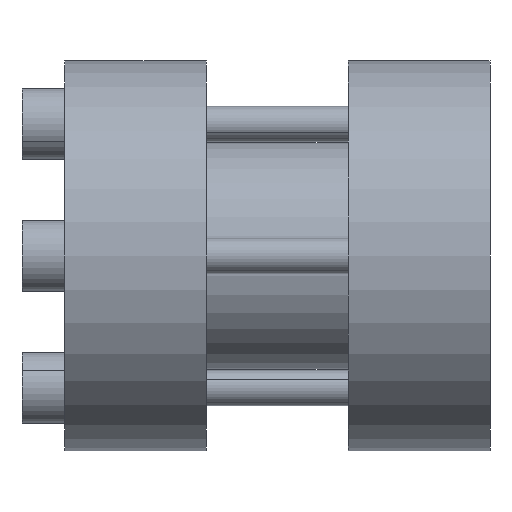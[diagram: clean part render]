
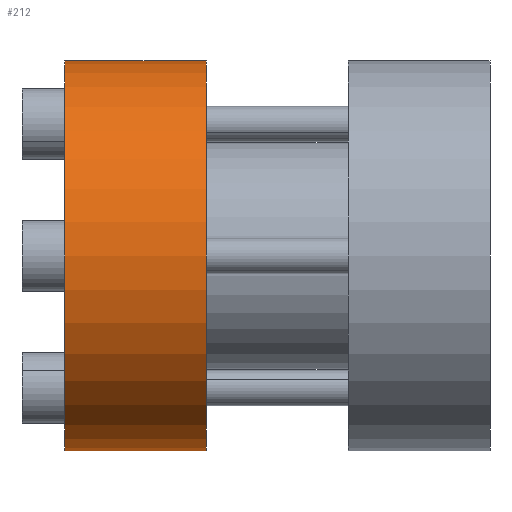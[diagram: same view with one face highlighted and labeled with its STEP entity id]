
A CAD part, front view. The second image highlights one B-rep face of the part: STEP entity #212.
In plain terms, the highlighted cylindrical face has radius 27.5 mm (diameter 55 mm), a partial arc.
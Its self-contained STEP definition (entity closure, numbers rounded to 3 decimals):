
#130 = EDGE_CURVE ( 'NONE', #182, #137, #3301, .T. ) ;
#131 = ORIENTED_EDGE ( 'NONE', *, *, #207, .T. ) ;
#132 = ORIENTED_EDGE ( 'NONE', *, *, #256, .F. ) ;
#137 = VERTEX_POINT ( 'NONE', #3433 ) ;
#174 = VERTEX_POINT ( 'NONE', #3338 ) ;
#182 = VERTEX_POINT ( 'NONE', #3319 ) ;
#189 = VERTEX_POINT ( 'NONE', #3393 ) ;
#207 = EDGE_CURVE ( 'NONE', #137, #189, #3485, .T. ) ;
#212 = ADVANCED_FACE ( 'NONE', ( #3476 ), #3475, .T. ) ;
#213 = EDGE_LOOP ( 'NONE', ( #214, #215, #131, #132 ) ) ;
#214 = ORIENTED_EDGE ( 'NONE', *, *, #220, .F. ) ;
#215 = ORIENTED_EDGE ( 'NONE', *, *, #130, .T. ) ;
#220 = EDGE_CURVE ( 'NONE', #182, #174, #3452, .T. ) ;
#256 = EDGE_CURVE ( 'NONE', #174, #189, #3343, .T. ) ;
#3298 = DIRECTION ( 'NONE',  ( -1., 0., 0. ) ) ;
#3299 = CARTESIAN_POINT ( 'NONE',  ( 20., 0., 0. ) ) ;
#3300 = AXIS2_PLACEMENT_3D ( 'NONE', #3299, #3298, #3447 ) ;
#3301 = CIRCLE ( 'NONE', #3300, 27.5 ) ;
#3319 = CARTESIAN_POINT ( 'NONE',  ( 20., 0., -27.5 ) ) ;
#3338 = CARTESIAN_POINT ( 'NONE',  ( 0., 0., -27.5 ) ) ;
#3343 = CIRCLE ( 'NONE', #3384, 27.5 ) ;
#3381 = DIRECTION ( 'NONE',  ( 0., 0., 1. ) ) ;
#3382 = DIRECTION ( 'NONE',  ( -1., 0., 0. ) ) ;
#3383 = CARTESIAN_POINT ( 'NONE',  ( 0., 0., 0. ) ) ;
#3384 = AXIS2_PLACEMENT_3D ( 'NONE', #3383, #3382, #3381 ) ;
#3393 = CARTESIAN_POINT ( 'NONE',  ( 0., 0., 27.5 ) ) ;
#3433 = CARTESIAN_POINT ( 'NONE',  ( 20., 0., 27.5 ) ) ;
#3447 = DIRECTION ( 'NONE',  ( 0., 0., 1. ) ) ;
#3449 = DIRECTION ( 'NONE',  ( -1., 0., 0. ) ) ;
#3450 = VECTOR ( 'NONE', #3449, 1000. ) ;
#3451 = CARTESIAN_POINT ( 'NONE',  ( 0., 0., -27.5 ) ) ;
#3452 = LINE ( 'NONE', #3451, #3450 ) ;
#3470 = DIRECTION ( 'NONE',  ( 0., 0., 1. ) ) ;
#3471 = DIRECTION ( 'NONE',  ( -1., 0., 0. ) ) ;
#3472 = CARTESIAN_POINT ( 'NONE',  ( 0., 0., 0. ) ) ;
#3473 = AXIS2_PLACEMENT_3D ( 'NONE', #3472, #3471, #3470 ) ;
#3475 = CYLINDRICAL_SURFACE ( 'NONE', #3473, 27.5 ) ;
#3476 = FACE_OUTER_BOUND ( 'NONE', #213, .T. ) ;
#3482 = DIRECTION ( 'NONE',  ( -1., 0., 0. ) ) ;
#3483 = VECTOR ( 'NONE', #3482, 1000. ) ;
#3484 = CARTESIAN_POINT ( 'NONE',  ( 0., 0., 27.5 ) ) ;
#3485 = LINE ( 'NONE', #3484, #3483 ) ;
